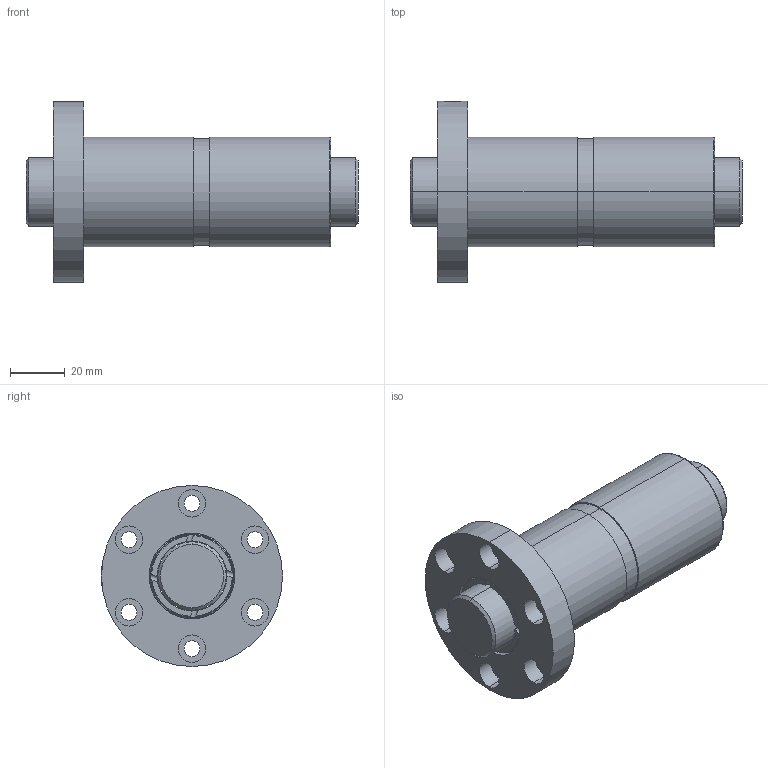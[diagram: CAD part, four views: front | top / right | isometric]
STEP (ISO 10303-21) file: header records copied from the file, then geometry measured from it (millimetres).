
FILE_DESCRIPTION (( 'STEP AP203' ), '1' );
FILE_NAME ('DFZR02505T4N-C.STEP', '2020-06-18T01:20:27', ( '' ), ( '' ), 'SwSTEP 2.0', 'SolidWorks 2013', '' );
FILE_SCHEMA (( 'CONFIG_CONTROL_DESIGN' ));
Length unit declared in the file: millimetre
Products named in the file (1): DFZR02505T4N-C
Bounding box: 121 x 66 x 66 mm (x, y, z)
Volume: 149131.8 mm3; surface area: 42541 mm2
Topology: 2 solids, 2 shells, 130 faces, 320 edges, 208 vertices
Faces by surface type: cylinder 74, plane 30, torus 22, cone 4
Entity records: 4759 total; most frequent: CARTESIAN_POINT 1501, DIRECTION 708, ORIENTED_EDGE 640, EDGE_CURVE 320, AXIS2_PLACEMENT_3D 313, VERTEX_POINT 208, CIRCLE 182, EDGE_LOOP 162
